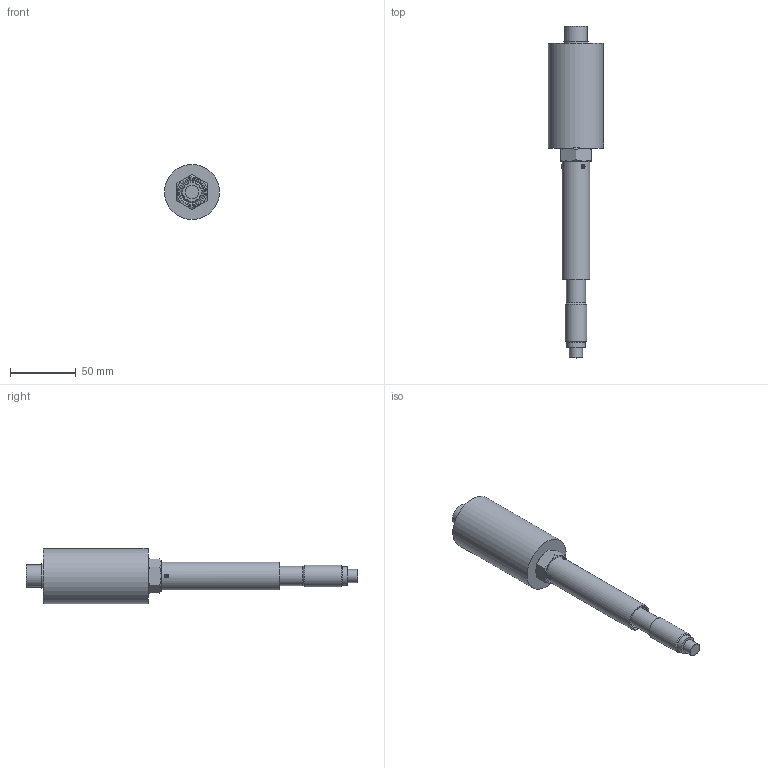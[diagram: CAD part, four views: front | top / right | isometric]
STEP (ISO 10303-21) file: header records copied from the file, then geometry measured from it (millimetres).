
FILE_DESCRIPTION (( 'STEP AP203' ), '1' );
FILE_NAME ('YICZ100PHB-1(0).STEP', '2023-06-22T04:15:53', ( '' ), ( '' ), 'SwSTEP 2.0', 'SolidWorks 2021', '' );
FILE_SCHEMA (( 'CONFIG_CONTROL_DESIGN' ));
Length unit declared in the file: millimetre
Products named in the file (1): YICZ100PHB-1(0)
Bounding box: 41.96 x 253 x 41.96 mm (x, y, z)
Volume: 155533.7 mm3; surface area: 33077.4 mm2
Topology: 2 solids, 2 shells, 83 faces, 176 edges, 115 vertices
Faces by surface type: plane 46, cylinder 23, cone 14
Full cylindrical faces by diameter (mm): 3 x6, 10 x1, 14 x1, 14.6 x2, 16.662 x1, 16.9 x1, 17 x2, 19 x1, 21 x1, 42 x1
Entity records: 2487 total; most frequent: CARTESIAN_POINT 764, DIRECTION 342, ORIENTED_EDGE 276, AXIS2_PLACEMENT_3D 138, EDGE_CURVE 138, EDGE_LOOP 134, VERTEX_POINT 108, FACE_OUTER_BOUND 100
